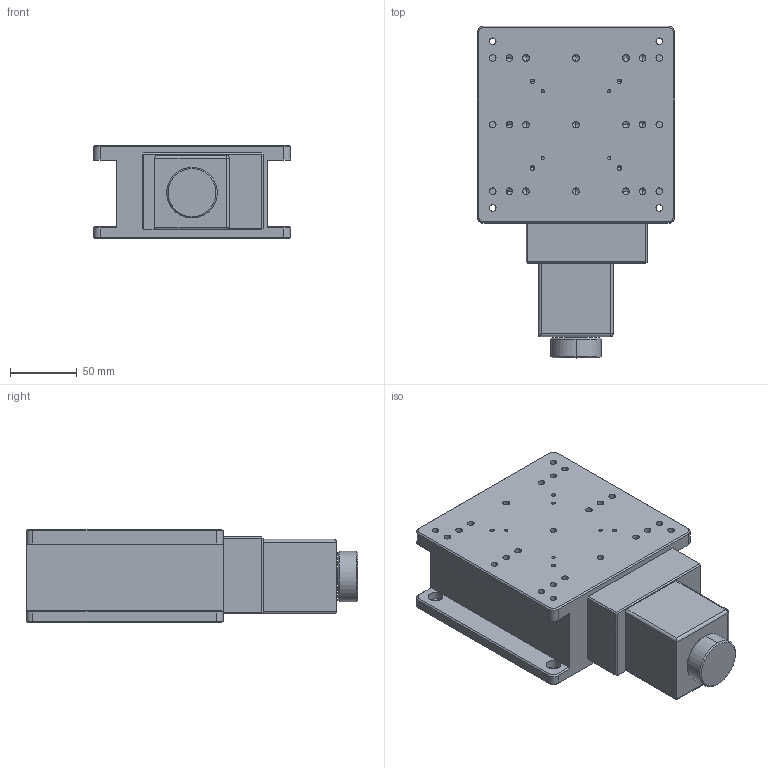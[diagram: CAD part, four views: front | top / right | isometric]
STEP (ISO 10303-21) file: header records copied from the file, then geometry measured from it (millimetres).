
FILE_DESCRIPTION (( 'STEP AP214' ), '1' );
FILE_NAME ('PT-GD148.STEP', '2022-09-18T07:07:00', ( '' ), ( '' ), 'SwSTEP 2.0', 'SolidWorks 2017', '' );
FILE_SCHEMA (( 'AUTOMOTIVE_DESIGN' ));
Length unit declared in the file: millimetre
Products named in the file (1): PT-GD148
Bounding box: 148 x 249 x 70 mm (x, y, z)
Volume: 1609641.9 mm3; surface area: 123894.7 mm2
Topology: 1 solids, 1 shells, 402 faces, 1063 edges, 661 vertices
Faces by surface type: plane 161, cylinder 101, bspline 78, cone 62
Entity records: 15251 total; most frequent: CARTESIAN_POINT 5810, ORIENTED_EDGE 2030, DIRECTION 1746, EDGE_CURVE 1015, VERTEX_POINT 661, VECTOR 624, LINE 624, AXIS2_PLACEMENT_3D 561
